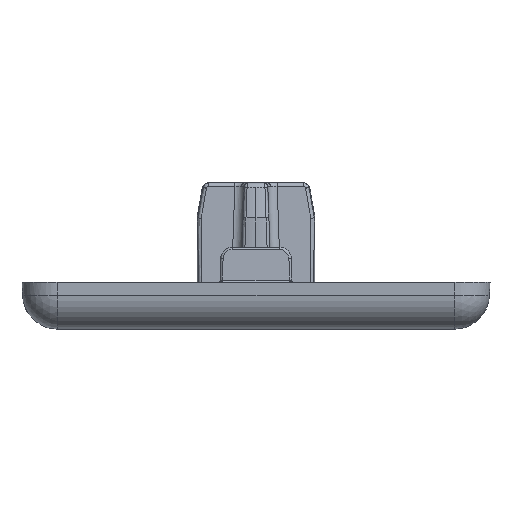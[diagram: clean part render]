
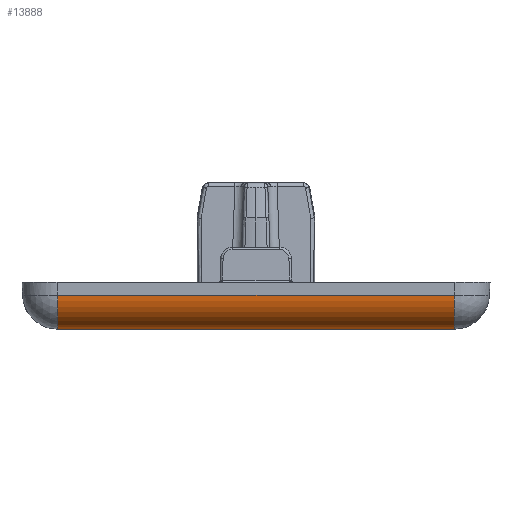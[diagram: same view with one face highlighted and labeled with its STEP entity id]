
A CAD part, left-side view. The second image highlights one B-rep face of the part: STEP entity #13888.
In plain terms, the highlighted cylindrical face has radius 3 mm (diameter 6 mm), a partial arc.
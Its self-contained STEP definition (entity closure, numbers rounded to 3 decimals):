
#278 = ORIENTED_EDGE ( 'NONE', *, *, #1875, .F. ) ;
#963 = CARTESIAN_POINT ( 'NONE',  ( -16.963, 16.963, 3. ) ) ;
#1572 = EDGE_LOOP ( 'NONE', ( #14131, #6447, #5610, #278 ) ) ;
#1875 = EDGE_CURVE ( 'NONE', #8787, #12509, #4195, .T. ) ;
#2243 = DIRECTION ( 'NONE',  ( 0., 0., -1. ) ) ;
#2908 = AXIS2_PLACEMENT_3D ( 'NONE', #963, #9743, #2243 ) ;
#3259 = DIRECTION ( 'NONE',  ( 0., 1., 0. ) ) ;
#4119 = VERTEX_POINT ( 'NONE', #9195 ) ;
#4195 = LINE ( 'NONE', #15311, #10847 ) ;
#4452 = CARTESIAN_POINT ( 'NONE',  ( -16.963, -16.963, 3. ) ) ;
#4885 = DIRECTION ( 'NONE',  ( -1., 0., 0. ) ) ;
#4915 = CARTESIAN_POINT ( 'NONE',  ( -19.961, -16.963, 2.895 ) ) ;
#5383 = VECTOR ( 'NONE', #3259, 1000. ) ;
#5448 = CARTESIAN_POINT ( 'NONE',  ( -19.961, 16.963, 2.895 ) ) ;
#5610 = ORIENTED_EDGE ( 'NONE', *, *, #6405, .F. ) ;
#5709 = DIRECTION ( 'NONE',  ( 0., 0., -1. ) ) ;
#5746 = CARTESIAN_POINT ( 'NONE',  ( -16.963, 20., 0. ) ) ;
#5949 = FACE_OUTER_BOUND ( 'NONE', #1572, .T. ) ;
#6163 = DIRECTION ( 'NONE',  ( 0., 1., 0. ) ) ;
#6405 = EDGE_CURVE ( 'NONE', #12509, #4119, #10096, .T. ) ;
#6447 = ORIENTED_EDGE ( 'NONE', *, *, #13232, .F. ) ;
#8470 = CYLINDRICAL_SURFACE ( 'NONE', #8675, 3. ) ;
#8675 = AXIS2_PLACEMENT_3D ( 'NONE', #9848, #6163, #4885 ) ;
#8785 = CARTESIAN_POINT ( 'NONE',  ( -16.963, 16.963, 0. ) ) ;
#8787 = VERTEX_POINT ( 'NONE', #5448 ) ;
#9195 = CARTESIAN_POINT ( 'NONE',  ( -16.963, -16.963, 0. ) ) ;
#9743 = DIRECTION ( 'NONE',  ( 0., -1., 0. ) ) ;
#9848 = CARTESIAN_POINT ( 'NONE',  ( -16.963, 20., 3. ) ) ;
#10096 = CIRCLE ( 'NONE', #16204, 3. ) ;
#10847 = VECTOR ( 'NONE', #16143, 1000. ) ;
#11169 = VERTEX_POINT ( 'NONE', #8785 ) ;
#11915 = EDGE_CURVE ( 'NONE', #8787, #11169, #13663, .T. ) ;
#12509 = VERTEX_POINT ( 'NONE', #4915 ) ;
#13191 = DIRECTION ( 'NONE',  ( 0., -1., 0. ) ) ;
#13232 = EDGE_CURVE ( 'NONE', #4119, #11169, #15360, .T. ) ;
#13663 = CIRCLE ( 'NONE', #2908, 3. ) ;
#13888 = ADVANCED_FACE ( 'NONE', ( #5949 ), #8470, .T. ) ;
#14131 = ORIENTED_EDGE ( 'NONE', *, *, #11915, .T. ) ;
#15311 = CARTESIAN_POINT ( 'NONE',  ( -19.961, 20., 2.895 ) ) ;
#15360 = LINE ( 'NONE', #5746, #5383 ) ;
#16143 = DIRECTION ( 'NONE',  ( 0., -1., 0. ) ) ;
#16204 = AXIS2_PLACEMENT_3D ( 'NONE', #4452, #13191, #5709 ) ;
